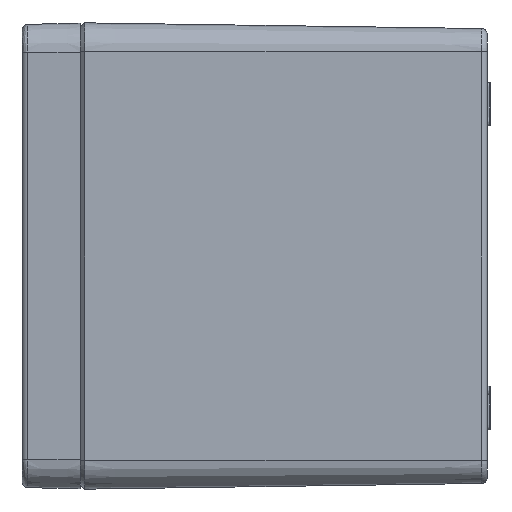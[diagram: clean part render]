
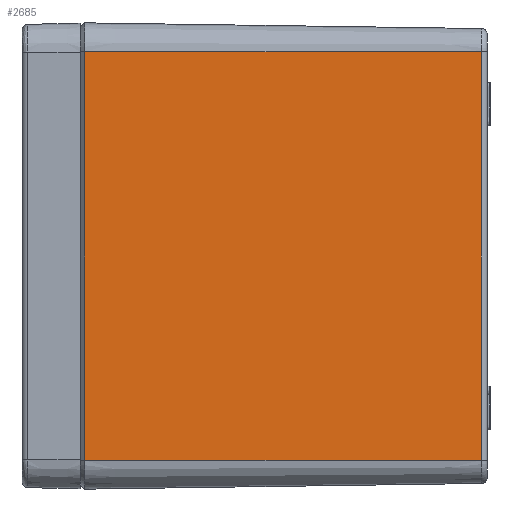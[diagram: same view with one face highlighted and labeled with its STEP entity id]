
A CAD part, left-side view. The second image highlights one B-rep face of the part: STEP entity #2685.
In plain terms, the highlighted planar face has unit normal (-1, -0.014, 0).
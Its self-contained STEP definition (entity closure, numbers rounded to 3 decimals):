
#923 = CARTESIAN_POINT ( 'NONE',  ( -130.074, -1.528, -70.1 ) ) ;
#1006 = CARTESIAN_POINT ( 'NONE',  ( -128.124, -137.763, 70.1 ) ) ;
#1637 = VECTOR ( 'NONE', #15305, 1000. ) ;
#1924 = LINE ( 'NONE', #25872, #24730 ) ;
#2099 = DIRECTION ( 'NONE',  ( 0., 0., -1. ) ) ;
#2685 = ADVANCED_FACE ( 'NONE', ( #30628 ), #6520, .T. ) ;
#2702 = ORIENTED_EDGE ( 'NONE', *, *, #20215, .F. ) ;
#3459 = VERTEX_POINT ( 'NONE', #1006 ) ;
#4440 = DIRECTION ( 'NONE',  ( 0.014, -1., 0. ) ) ;
#5249 = CARTESIAN_POINT ( 'NONE',  ( -130.074, -1.528, 70.1 ) ) ;
#5320 = ORIENTED_EDGE ( 'NONE', *, *, #16290, .F. ) ;
#5539 = CARTESIAN_POINT ( 'NONE',  ( -128.124, -137.763, -70.1 ) ) ;
#5835 = EDGE_CURVE ( 'NONE', #25785, #22435, #21586, .T. ) ;
#6520 = PLANE ( 'NONE',  #30733 ) ;
#7955 = LINE ( 'NONE', #5539, #1637 ) ;
#8371 = LINE ( 'NONE', #30235, #31214 ) ;
#8948 = DIRECTION ( 'NONE',  ( 0., 0., 1. ) ) ;
#10070 = ORIENTED_EDGE ( 'NONE', *, *, #5835, .T. ) ;
#10182 = EDGE_CURVE ( 'NONE', #13500, #3459, #1924, .T. ) ;
#13500 = VERTEX_POINT ( 'NONE', #20331 ) ;
#15305 = DIRECTION ( 'NONE',  ( -0.014, 1., 0. ) ) ;
#15567 = DIRECTION ( 'NONE',  ( 0.014, -1., 0. ) ) ;
#16275 = CARTESIAN_POINT ( 'NONE',  ( -130.1, 0.272, 70.1 ) ) ;
#16290 = EDGE_CURVE ( 'NONE', #13500, #22435, #7955, .T. ) ;
#20215 = EDGE_CURVE ( 'NONE', #25785, #3459, #8371, .T. ) ;
#20331 = CARTESIAN_POINT ( 'NONE',  ( -128.124, -137.763, -70.1 ) ) ;
#21586 = LINE ( 'NONE', #26675, #29097 ) ;
#22287 = ORIENTED_EDGE ( 'NONE', *, *, #10182, .T. ) ;
#22435 = VERTEX_POINT ( 'NONE', #923 ) ;
#24730 = VECTOR ( 'NONE', #8948, 1000. ) ;
#25785 = VERTEX_POINT ( 'NONE', #5249 ) ;
#25872 = CARTESIAN_POINT ( 'NONE',  ( -128.124, -137.763, -70.1 ) ) ;
#25998 = DIRECTION ( 'NONE',  ( -1., -0.014, 0. ) ) ;
#26253 = EDGE_LOOP ( 'NONE', ( #2702, #10070, #5320, #22287 ) ) ;
#26675 = CARTESIAN_POINT ( 'NONE',  ( -130.074, -1.528, 70.1 ) ) ;
#29097 = VECTOR ( 'NONE', #2099, 1000. ) ;
#30235 = CARTESIAN_POINT ( 'NONE',  ( -130.074, -1.528, 70.1 ) ) ;
#30628 = FACE_OUTER_BOUND ( 'NONE', #26253, .T. ) ;
#30733 = AXIS2_PLACEMENT_3D ( 'NONE', #16275, #25998, #4440 ) ;
#31214 = VECTOR ( 'NONE', #15567, 1000. ) ;
